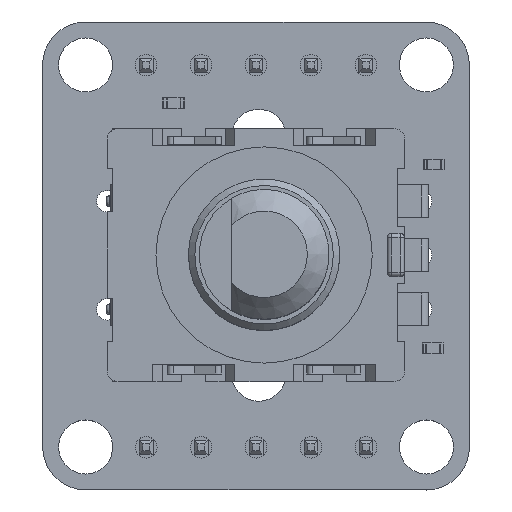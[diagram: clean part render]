
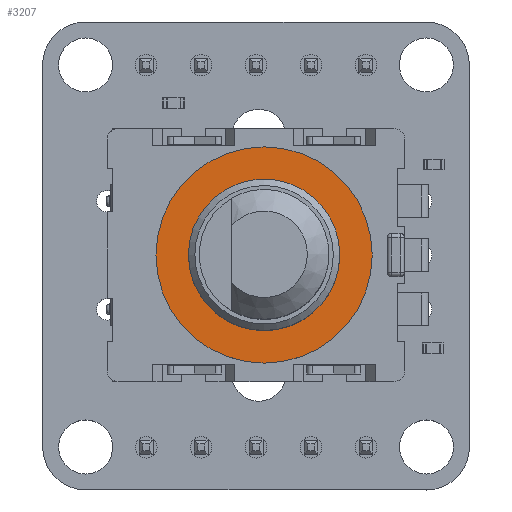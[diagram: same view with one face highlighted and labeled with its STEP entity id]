
A CAD part, top view. The second image highlights one B-rep face of the part: STEP entity #3207.
In plain terms, the highlighted planar face has unit normal (0, 0, 1).
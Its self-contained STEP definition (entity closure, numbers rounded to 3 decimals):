
#3187 = EDGE_CURVE('',#3188,#3188,#3190,.T.);
#3188 = VERTEX_POINT('',#3189);
#3189 = CARTESIAN_POINT('',(-5.,0.,0.4));
#3190 = CIRCLE('',#3191,5.);
#3191 = AXIS2_PLACEMENT_3D('',#3192,#3193,#3194);
#3192 = CARTESIAN_POINT('',(0.,0.,0.4));
#3193 = DIRECTION('',(0.,0.,-1.));
#3194 = DIRECTION('',(-1.,0.,0.));
#3207 = ADVANCED_FACE('',(#3208,#3219),#3222,.T.);
#3208 = FACE_BOUND('',#3209,.T.);
#3209 = EDGE_LOOP('',(#3210));
#3210 = ORIENTED_EDGE('',*,*,#3211,.T.);
#3211 = EDGE_CURVE('',#3212,#3212,#3214,.T.);
#3212 = VERTEX_POINT('',#3213);
#3213 = CARTESIAN_POINT('',(-3.5,0.,0.4));
#3214 = CIRCLE('',#3215,3.5);
#3215 = AXIS2_PLACEMENT_3D('',#3216,#3217,#3218);
#3216 = CARTESIAN_POINT('',(0.,0.,0.4));
#3217 = DIRECTION('',(0.,0.,-1.));
#3218 = DIRECTION('',(-1.,0.,0.));
#3219 = FACE_BOUND('',#3220,.T.);
#3220 = EDGE_LOOP('',(#3221));
#3221 = ORIENTED_EDGE('',*,*,#3187,.F.);
#3222 = PLANE('',#3223);
#3223 = AXIS2_PLACEMENT_3D('',#3224,#3225,#3226);
#3224 = CARTESIAN_POINT('',(-5.,0.,0.4));
#3225 = DIRECTION('',(0.,0.,1.));
#3226 = DIRECTION('',(1.,0.,0.));
